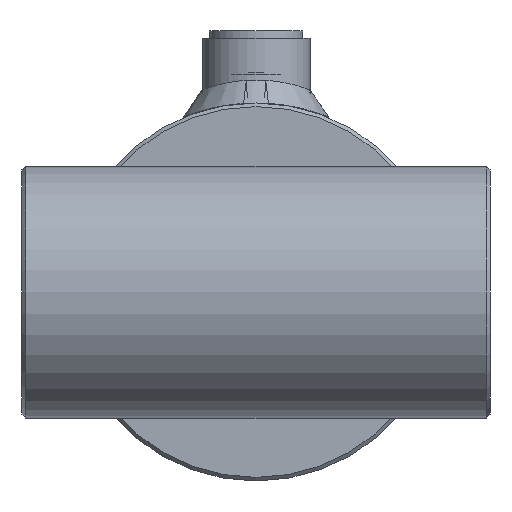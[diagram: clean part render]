
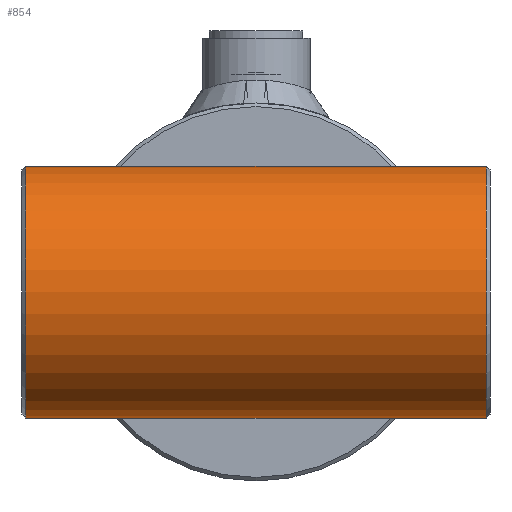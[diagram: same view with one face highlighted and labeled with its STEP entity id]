
A CAD part, left-side view. The second image highlights one B-rep face of the part: STEP entity #854.
In plain terms, the highlighted cylindrical face has radius 35 mm (diameter 70 mm), a full revolution.
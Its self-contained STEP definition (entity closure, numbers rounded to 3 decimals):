
#854 = ADVANCED_FACE( '', ( #1640, #1641 ), #1642, .T. );
#1640 = FACE_OUTER_BOUND( '', #3365, .T. );
#1641 = FACE_OUTER_BOUND( '', #3366, .T. );
#1642 = CYLINDRICAL_SURFACE( '', #3367, 35. );
#3365 = EDGE_LOOP( '', ( #9866 ) );
#3366 = EDGE_LOOP( '', ( #9867 ) );
#3367 = AXIS2_PLACEMENT_3D( '', #9868, #9869, #9870 );
#9866 = ORIENTED_EDGE( '', *, *, #11325, .T. );
#9867 = ORIENTED_EDGE( '', *, *, #11326, .T. );
#9868 = CARTESIAN_POINT( '', ( 0., -65., 0. ) );
#9869 = DIRECTION( '', ( 0., -1., 0. ) );
#9870 = DIRECTION( '', ( 0., 0., 1. ) );
#11325 = EDGE_CURVE( '', #12258, #12258, #12259, .F. );
#11326 = EDGE_CURVE( '', #12260, #12260, #12261, .T. );
#12258 = VERTEX_POINT( '', #13917 );
#12259 = CIRCLE( '', #13918, 35. );
#12260 = VERTEX_POINT( '', #13919 );
#12261 = CIRCLE( '', #13920, 35. );
#13917 = CARTESIAN_POINT( '', ( 0., 64., 35. ) );
#13918 = AXIS2_PLACEMENT_3D( '', #16709, #16710, #16711 );
#13919 = CARTESIAN_POINT( '', ( 0., -64., 35. ) );
#13920 = AXIS2_PLACEMENT_3D( '', #16712, #16713, #16714 );
#16709 = CARTESIAN_POINT( '', ( 0., 64., 0. ) );
#16710 = DIRECTION( '', ( 0., 1., 0. ) );
#16711 = DIRECTION( '', ( 0., 0., 1. ) );
#16712 = CARTESIAN_POINT( '', ( 0., -64., 0. ) );
#16713 = DIRECTION( '', ( 0., 1., 0. ) );
#16714 = DIRECTION( '', ( 0., 0., 1. ) );
